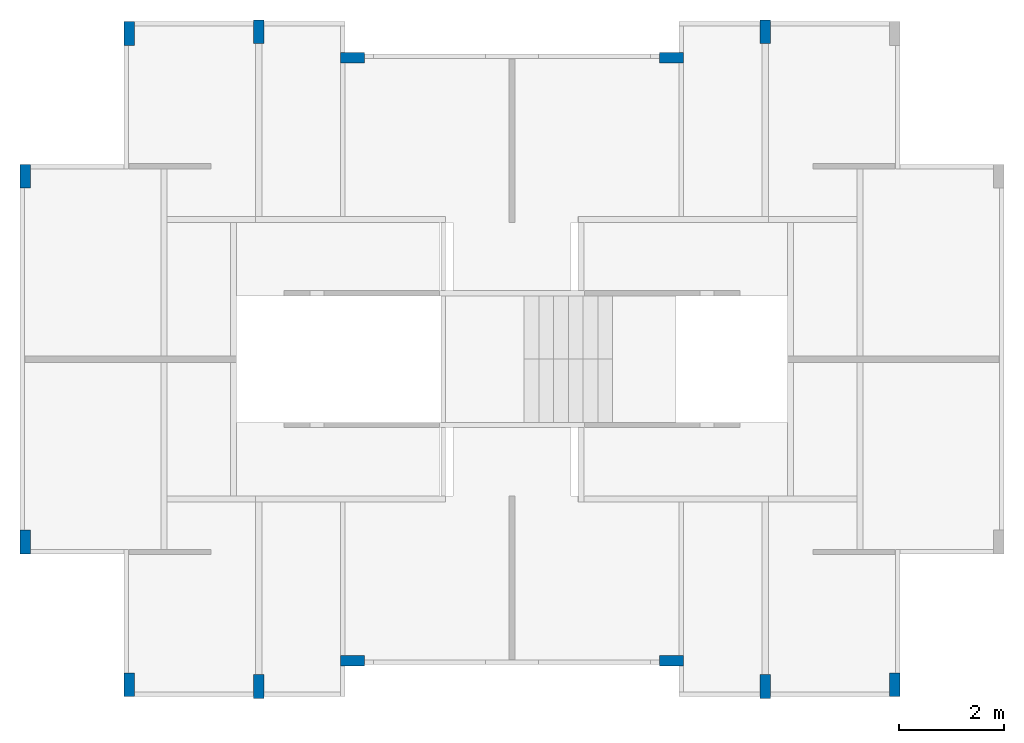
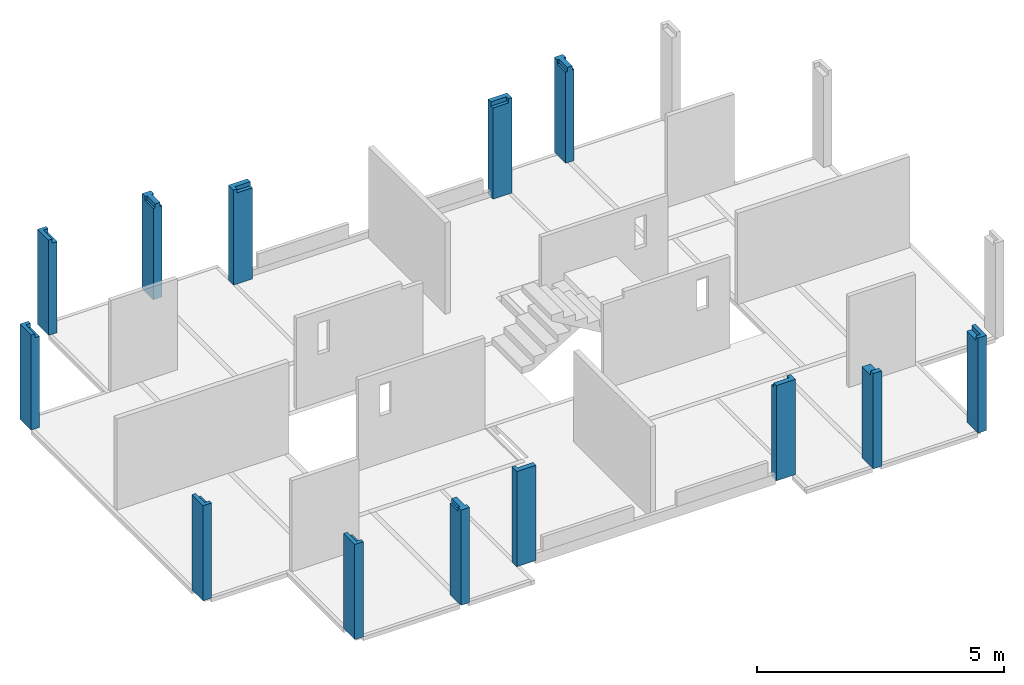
# One storey, part 5 of 6: 14 columns.
"""IFC4 building model written with IfcOpenShell, lengths in metres."""

from ifc_helpers import new_model, entity, si_unit, converted_unit, derived_unit, direction, frame, origin, place, context, subcontext, project, spatial, polygons, source, transform, mapped, material, type_object, type_shapes, element, save


model = new_model("IFC4")

# Units and contexts
model_context = context("Model", 3, precision=1e-05, world=origin(), true_north=direction((6.123031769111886e-17, 1.0)))
body_context = subcontext(model_context, "Body", "Model", "MODEL_VIEW")
ifc_project = project(units=[si_unit("LENGTHUNIT", "METRE"), si_unit("AREAUNIT", "SQUARE_METRE"), si_unit("VOLUMEUNIT", "CUBIC_METRE"), converted_unit("PLANEANGLEUNIT", "DEGREE", entity("IfcRatioMeasure", 0.017453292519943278), si_unit("PLANEANGLEUNIT", "RADIAN"), dimensions=[0, 0, 0, 0, 0, 0, 0]), si_unit("MASSUNIT", "GRAM", prefix="KILO"), derived_unit("MASSDENSITYUNIT", [(si_unit("MASSUNIT", "GRAM", prefix="KILO"), 1), (si_unit("LENGTHUNIT", "METRE"), -3)]), derived_unit("IONCONCENTRATIONUNIT", [(si_unit("MASSUNIT", "GRAM", prefix="KILO"), 1), (si_unit("LENGTHUNIT", "METRE"), -3)]), derived_unit("MOMENTOFINERTIAUNIT", [(si_unit("LENGTHUNIT", "METRE"), 4)]), si_unit("TIMEUNIT", "SECOND"), si_unit("FREQUENCYUNIT", "HERTZ"), si_unit("THERMODYNAMICTEMPERATUREUNIT", "DEGREE_CELSIUS"), derived_unit("THERMALTRANSMITTANCEUNIT", [(si_unit("MASSUNIT", "GRAM", prefix="KILO"), 1), (si_unit("THERMODYNAMICTEMPERATUREUNIT", "KELVIN"), -1), (si_unit("TIMEUNIT", "SECOND"), -3)]), derived_unit("THERMALCONDUCTANCEUNIT", [(si_unit("MASSUNIT", "GRAM", prefix="KILO"), 1), (si_unit("THERMODYNAMICTEMPERATUREUNIT", "KELVIN"), -1), (si_unit("TIMEUNIT", "SECOND"), -3), (si_unit("LENGTHUNIT", "METRE"), 1)]), derived_unit("VOLUMETRICFLOWRATEUNIT", [(si_unit("LENGTHUNIT", "METRE"), 3), (si_unit("TIMEUNIT", "SECOND"), -1)]), derived_unit("MASSFLOWRATEUNIT", [(si_unit("MASSUNIT", "GRAM", prefix="KILO"), 1), (si_unit("TIMEUNIT", "SECOND"), -1)]), derived_unit("ROTATIONALFREQUENCYUNIT", [(si_unit("TIMEUNIT", "SECOND"), -1)]), si_unit("ELECTRICCURRENTUNIT", "AMPERE"), si_unit("ELECTRICVOLTAGEUNIT", "VOLT"), si_unit("POWERUNIT", "WATT"), si_unit("FORCEUNIT", "NEWTON", prefix="KILO"), si_unit("ILLUMINANCEUNIT", "LUX"), si_unit("LUMINOUSFLUXUNIT", "LUMEN"), si_unit("LUMINOUSINTENSITYUNIT", "CANDELA"), derived_unit("USERDEFINED", [(si_unit("MASSUNIT", "GRAM", prefix="KILO"), -1), (si_unit("LENGTHUNIT", "METRE"), -2), (si_unit("TIMEUNIT", "SECOND"), 3), (si_unit("LUMINOUSFLUXUNIT", "LUMEN"), 1)]), derived_unit("USERDEFINED", [(si_unit("MASSUNIT", "GRAM", prefix="KILO"), 1), (si_unit("TIMEUNIT", "SECOND"), -3), (si_unit("LENGTHUNIT", "METRE"), 3), (si_unit("ELECTRICCURRENTUNIT", "AMPERE"), -2)]), derived_unit("SOUNDPOWERUNIT", [(si_unit("MASSUNIT", "GRAM", prefix="KILO"), 1), (si_unit("TIMEUNIT", "SECOND"), -3), (si_unit("LENGTHUNIT", "METRE"), 2)]), derived_unit("SOUNDPRESSUREUNIT", [(si_unit("MASSUNIT", "GRAM", prefix="KILO"), 1), (si_unit("LENGTHUNIT", "METRE"), -1), (si_unit("TIMEUNIT", "SECOND"), -2)]), derived_unit("LINEARVELOCITYUNIT", [(si_unit("LENGTHUNIT", "METRE"), 1), (si_unit("TIMEUNIT", "SECOND"), -1)]), si_unit("PRESSUREUNIT", "PASCAL"), derived_unit("USERDEFINED", [(si_unit("MASSUNIT", "GRAM", prefix="KILO"), 1), (si_unit("LENGTHUNIT", "METRE"), -2), (si_unit("TIMEUNIT", "SECOND"), -2)]), derived_unit("LINEARFORCEUNIT", [(si_unit("MASSUNIT", "GRAM", prefix="KILO"), 1), (si_unit("TIMEUNIT", "SECOND"), -2)]), derived_unit("PLANARFORCEUNIT", [(si_unit("MASSUNIT", "GRAM", prefix="KILO"), 1), (si_unit("LENGTHUNIT", "METRE"), -1), (si_unit("TIMEUNIT", "SECOND"), -2)]), derived_unit("SPECIFICHEATCAPACITYUNIT", [(si_unit("THERMODYNAMICTEMPERATUREUNIT", "KELVIN"), -1), (si_unit("LENGTHUNIT", "METRE"), 2), (si_unit("TIMEUNIT", "SECOND"), -2)]), derived_unit("HEATINGVALUEUNIT", [(si_unit("LENGTHUNIT", "METRE"), 2), (si_unit("TIMEUNIT", "SECOND"), -2)]), derived_unit("VAPORPERMEABILITYUNIT", [(si_unit("LENGTHUNIT", "METRE"), -1), (si_unit("TIMEUNIT", "SECOND"), 1)]), derived_unit("DYNAMICVISCOSITYUNIT", [(si_unit("MASSUNIT", "GRAM", prefix="KILO"), 1), (si_unit("TIMEUNIT", "SECOND"), -1), (si_unit("LENGTHUNIT", "METRE"), -1)]), derived_unit("THERMALEXPANSIONCOEFFICIENTUNIT", [(si_unit("THERMODYNAMICTEMPERATUREUNIT", "KELVIN"), -1)]), derived_unit("MODULUSOFELASTICITYUNIT", [(si_unit("MASSUNIT", "GRAM", prefix="KILO"), 1), (si_unit("LENGTHUNIT", "METRE"), -1), (si_unit("TIMEUNIT", "SECOND"), -2)]), derived_unit("ISOTHERMALMOISTURECAPACITYUNIT", [(si_unit("LENGTHUNIT", "METRE"), 3), (si_unit("MASSUNIT", "GRAM", prefix="KILO"), -1)]), derived_unit("MOISTUREDIFFUSIVITYUNIT", [(si_unit("TIMEUNIT", "SECOND"), -1), (si_unit("LENGTHUNIT", "METRE"), 2)])], contexts=[model_context])

# Site, building, storey
site_placement = place(None, origin())
site = spatial("IfcSite", under=ifc_project, at=site_placement, Name="Default", CompositionType="ELEMENT")
building_placement = place(site_placement, origin())
building = spatial("IfcBuilding", under=site, at=building_placement, Name="Las nubes", CompositionType="ELEMENT")
storey_placement = place(building_placement, frame((0.0, 0.0, 9.400000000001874)))
storey = spatial("IfcBuildingStorey", under=building, at=storey_placement, Name="PISO 5", CompositionType="ELEMENT", Elevation=9.400000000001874)

# Columns
ifc_material = material(Name="Concrete, Cast-in-Place gray", Category="Materials")
column_type_1 = type_object("IfcColumnType", Name="M_Concrete-Rectangular-Column:300 x 450mm", PredefinedType="COLUMN", material=ifc_material)
shared_shape_1 = source(origin(), body_context, "Body", "Tessellation", [
    polygons([(0.19999999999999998, 0.45000000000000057, 1.0828671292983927e-15), (0.19999999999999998, 5.414335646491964e-16, 1.0828671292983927e-15), (0.0, 5.414335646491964e-16, 1.0828671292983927e-15), (0.0, 0.45000000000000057, 1.0828671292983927e-15), (0.19999999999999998, 0.45000000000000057, 2.250000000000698), (0.19999999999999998, 0.45000000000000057, 2.350000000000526), (0.19999999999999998, 0.36499999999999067, 2.350000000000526), (0.19999999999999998, 0.36499999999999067, 2.250000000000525), (0.19999999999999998, 5.414335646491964e-16, 2.250000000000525), (0.08499999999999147, 5.414335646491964e-16, 2.250000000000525), (0.08499999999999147, 5.414335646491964e-16, 2.350000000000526), (0.0, 5.414335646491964e-16, 2.350000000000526), (0.0, 5.414335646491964e-16, 2.250000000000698), (0.0, 0.45000000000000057, 2.350000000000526), (0.08499999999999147, 0.36499999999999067, 2.350000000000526), (0.08499999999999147, 0.36499999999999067, 2.250000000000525)], [[[1, 2, 3, 4]], [[2, 1, 5, 6, 7, 8, 9]], [[3, 2, 9, 10, 11, 12, 13]], [[4, 3, 13, 12, 14]], [[1, 4, 14, 6, 5]], [[14, 12, 11, 15, 7, 6]], [[8, 16, 10, 9]], [[16, 15, 11, 10]], [[15, 16, 8, 7]]], closed=True),
])
type_shapes(column_type_1, [shared_shape_1])
column_1_placement = place(storey_placement, frame((-0.027499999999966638, -3.175000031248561, 0.0)))
element("IfcColumn", 1, at=column_1_placement, inside=storey, type_object=column_type_1, material=ifc_material, Name="M_Concrete-Rectangular-Column:300 x 450mm", ObjectType="M_Concrete-Rectangular-Column:300 x 450mm", PredefinedType="COLUMN", context=body_context, shape_type="MappedRepresentation", body=[
    mapped(shared_shape_1, transform((0.0, 0.0, 0.0), scale=1.0)),
])
column_type_2 = type_object("IfcColumnType", Name="M_Concrete-Rectangular-Column:300 x 450mm", PredefinedType="COLUMN", material=ifc_material)
shared_shape_2 = source(origin(), body_context, "Body", "Tessellation", [
    polygons([(0.19999999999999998, 0.45000000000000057, 1.0828671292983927e-15), (0.19999999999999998, 0.0, 1.0828671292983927e-15), (0.0, 0.0, 1.0828671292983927e-15), (0.0, 0.45000000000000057, 1.0828671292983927e-15), (0.19999999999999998, 0.45000000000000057, 2.250000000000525), (0.19999999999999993, 0.08499488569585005, 2.250000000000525), (0.19999999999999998, 0.08499488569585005, 2.350000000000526), (0.19999999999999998, 0.0, 2.350000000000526), (0.19999999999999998, 0.0, 2.250000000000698), (0.0, 0.0, 2.350000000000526), (0.0, 0.45000000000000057, 2.350000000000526), (0.0, 0.45000000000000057, 2.250000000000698), (0.08500000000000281, 0.45000000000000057, 2.350000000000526), (0.08500000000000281, 0.45000000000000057, 2.250000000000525), (0.08500000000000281, 0.08499488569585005, 2.350000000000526), (0.08500000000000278, 0.08499488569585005, 2.250000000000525)], [[[1, 2, 3, 4]], [[2, 1, 5, 6, 7, 8, 9]], [[3, 2, 9, 8, 10]], [[4, 3, 10, 11, 12]], [[1, 4, 12, 11, 13, 14, 5]], [[10, 8, 7, 15, 13, 11]], [[14, 16, 6, 5]], [[16, 15, 7, 6]], [[15, 16, 14, 13]]], closed=True),
])
type_shapes(column_type_2, [shared_shape_2])
column_2_placement = place(storey_placement, frame((-0.02749999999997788, -10.124994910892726, 0.0)))
element("IfcColumn", 2, at=column_2_placement, inside=storey, type_object=column_type_2, material=ifc_material, Name="M_Concrete-Rectangular-Column:300 x 450mm", ObjectType="M_Concrete-Rectangular-Column:300 x 450mm", PredefinedType="COLUMN", context=body_context, shape_type="MappedRepresentation", body=[
    mapped(shared_shape_2, transform((0.0, 0.0, 0.0), scale=1.0)),
])
column_type_3 = type_object("IfcColumnType", Name="M_Concrete-Rectangular-Column:300 x 450mm", PredefinedType="COLUMN", material=ifc_material)
shared_shape_3 = source(origin(), body_context, "Body", "Tessellation", [
    polygons([(0.2, 0.45, 1.0828671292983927e-15), (0.2, 6.767919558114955e-17, 1.0828671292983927e-15), (0.0, 6.767919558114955e-17, 1.0828671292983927e-15), (0.0, 0.45, 1.0828671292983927e-15), (0.2, 0.45, 2.350000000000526), (0.2, 0.3649999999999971, 2.350000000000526), (0.2, 0.3649999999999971, 2.250000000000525), (0.2, 6.767919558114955e-17, 2.250000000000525), (0.08500000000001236, 6.767919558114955e-17, 2.250000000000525), (0.08500000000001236, 6.767919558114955e-17, 2.350000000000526), (0.0, 6.767919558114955e-17, 2.350000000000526), (0.0, 6.767919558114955e-17, 2.250000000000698), (0.0, 0.45, 2.350000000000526), (0.08500000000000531, 0.3649999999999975, 2.350000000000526), (0.08500000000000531, 0.3649999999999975, 2.250000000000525)], [[[1, 2, 3, 4]], [[2, 1, 5, 6, 7, 8]], [[3, 2, 8, 9, 10, 11, 12]], [[4, 3, 12, 11, 13]], [[1, 4, 13, 5]], [[13, 11, 10, 14, 6, 5]], [[15, 9, 8, 7]], [[14, 15, 7, 6]], [[15, 14, 10, 9]]], closed=True),
])
type_shapes(column_type_3, [shared_shape_3])
column_3_placement = place(storey_placement, frame((1.94749999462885, -0.46000002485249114, 0.0)))
element("IfcColumn", 3, at=column_3_placement, inside=storey, type_object=column_type_3, material=ifc_material, Name="M_Concrete-Rectangular-Column:300 x 450mm", ObjectType="M_Concrete-Rectangular-Column:300 x 450mm", PredefinedType="COLUMN", context=body_context, shape_type="MappedRepresentation", body=[
    mapped(shared_shape_3, transform((0.0, 0.0, 0.0), scale=1.0)),
])
column_type_4 = type_object("IfcColumnType", Name="M_Concrete-Rectangular-Column:300 x 450mm", PredefinedType="COLUMN", material=ifc_material)
shared_shape_4 = source(origin(), body_context, "Body", "Tessellation", [
    polygons([(0.2, 0.45000000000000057, 1.0828671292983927e-15), (0.2, 6.09112760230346e-16, 1.0828671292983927e-15), (0.0, 6.09112760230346e-16, 1.0828671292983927e-15), (0.0, 0.45000000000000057, 1.0828671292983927e-15), (0.2, 0.45000000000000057, 2.350000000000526), (0.2, 0.42002052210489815, 2.350000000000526), (0.2, 0.3350000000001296, 2.350000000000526), (0.2, 0.3350000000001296, 2.250000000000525), (0.2, 6.09112760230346e-16, 2.250000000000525), (0.1574999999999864, 3.383959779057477e-16, 2.250000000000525), (0.1574999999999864, 5.414335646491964e-16, 2.350000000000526), (0.04249999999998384, 6.09112760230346e-16, 2.350000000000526), (0.04249999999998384, 6.09112760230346e-16, 2.250000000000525), (0.0, 6.09112760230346e-16, 2.250000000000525), (0.0, 0.33500000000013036, 2.250000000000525), (0.0, 0.33500000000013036, 2.350000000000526), (0.0, 0.4200205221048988, 2.350000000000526), (0.0, 0.45000000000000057, 2.350000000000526), (0.042499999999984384, 0.3350000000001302, 2.350000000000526), (0.15749999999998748, 0.3350000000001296, 2.350000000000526), (0.042499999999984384, 0.3350000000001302, 2.250000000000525), (0.15749999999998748, 0.3350000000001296, 2.250000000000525)], [[[1, 2, 3, 4]], [[2, 1, 5, 6, 7, 8, 9]], [[3, 2, 9, 10, 11, 12, 13, 14]], [[4, 3, 14, 15, 16, 17, 18]], [[1, 4, 18, 5]], [[5, 18, 17, 16, 19, 12, 11, 20, 7, 6]], [[13, 21, 15, 14]], [[21, 19, 16, 15]], [[19, 21, 13, 12]], [[8, 22, 10, 9]], [[22, 20, 11, 10]], [[20, 22, 8, 7]]], closed=True),
])
type_shapes(column_type_4, [shared_shape_4])
column_4_placement = place(storey_placement, frame((4.409999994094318, -0.4300000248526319, 0.0)))
element("IfcColumn", 4, at=column_4_placement, inside=storey, type_object=column_type_4, material=ifc_material, Name="M_Concrete-Rectangular-Column:300 x 450mm", ObjectType="M_Concrete-Rectangular-Column:300 x 450mm", PredefinedType="COLUMN", context=body_context, shape_type="MappedRepresentation", body=[
    mapped(shared_shape_4, transform((0.0, 0.0, 0.0), scale=1.0)),
])
column_type_5 = type_object("IfcColumnType", Name="M_Concrete-Rectangular-Column:300 x 450mm", PredefinedType="COLUMN", material=ifc_material)
shared_shape_5 = source(origin(), body_context, "Body", "Tessellation", [
    polygons([(2.1657342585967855e-15, 0.20000000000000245, 1.0828671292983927e-15), (0.45000000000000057, 0.2, 1.0828671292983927e-15), (0.45000000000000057, 0.0, 1.0828671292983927e-15), (1.0828671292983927e-15, 2.436451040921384e-15, 1.0828671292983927e-15), (1.0828671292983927e-15, 0.20000000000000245, 2.250000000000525), (2.1657342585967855e-15, 0.20000000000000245, 2.350000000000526), (0.08500000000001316, 0.2000000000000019, 2.350000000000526), (0.45000000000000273, 0.2, 2.350000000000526), (0.45000000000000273, 0.08500000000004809, 2.350000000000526), (0.45000000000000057, 0.08500000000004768, 2.250000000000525), (0.45000000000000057, 0.0, 2.250000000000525), (0.08500000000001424, 1.7596590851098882e-15, 2.250000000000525), (0.08500000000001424, 2.0303758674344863e-15, 2.350000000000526), (1.0828671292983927e-15, 2.436451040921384e-15, 2.350000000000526), (1.0828671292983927e-15, 2.436451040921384e-15, 2.250000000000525), (0.08500000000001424, 0.08500000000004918, 2.350000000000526), (0.08500000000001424, 0.08500000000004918, 2.250000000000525)], [[[1, 2, 3, 4]], [[2, 1, 5, 6, 7, 8]], [[3, 2, 8, 9, 10, 11]], [[4, 3, 11, 12, 13, 14, 15]], [[1, 4, 15, 14, 6, 5]], [[8, 7, 6, 14, 13, 16, 9]], [[10, 17, 12, 11]], [[17, 16, 13, 12]], [[16, 17, 10, 9]]], closed=True),
])
type_shapes(column_type_5, [shared_shape_5])
column_5_placement = place(storey_placement, frame((6.067499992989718, -0.7950000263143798, 0.0)))
element("IfcColumn", 5, at=column_5_placement, inside=storey, type_object=column_type_5, material=ifc_material, Name="M_Concrete-Rectangular-Column:300 x 450mm", ObjectType="M_Concrete-Rectangular-Column:300 x 450mm", PredefinedType="COLUMN", context=body_context, shape_type="MappedRepresentation", body=[
    mapped(shared_shape_5, transform((0.0, 0.0, 0.0), scale=1.0)),
])
column_type_6 = type_object("IfcColumnType", Name="M_Concrete-Rectangular-Column:300 x 450mm", PredefinedType="COLUMN", material=ifc_material)
shared_shape_6 = source(origin(), body_context, "Body", "Tessellation", [
    polygons([(0.0, 6.09112760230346e-16, 1.0828671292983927e-15), (0.0, 0.45000000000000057, 1.0828671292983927e-15), (0.2, 0.45000000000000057, 1.0828671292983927e-15), (0.2, 6.09112760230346e-16, 1.0828671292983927e-15), (0.0, 6.09112760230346e-16, 2.250000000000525), (0.0, 0.3350000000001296, 2.250000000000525), (0.0, 0.3350000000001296, 2.350000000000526), (0.0, 0.41999999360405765, 2.350000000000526), (0.0, 0.45000000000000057, 2.350000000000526), (0.2, 6.09112760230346e-16, 2.250000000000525), (0.15749999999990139, 3.383959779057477e-16, 2.250000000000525), (0.15749999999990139, 5.414335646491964e-16, 2.350000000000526), (0.04249999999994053, 6.09112760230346e-16, 2.350000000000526), (0.04249999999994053, 3.383959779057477e-16, 2.250000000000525), (0.2, 0.45000000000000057, 2.350000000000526), (0.2, 0.41999999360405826, 2.350000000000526), (0.2, 0.33500000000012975, 2.350000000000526), (0.2, 0.33500000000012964, 2.250000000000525), (0.04249999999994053, 0.3350000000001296, 2.350000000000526), (0.15749999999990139, 0.3350000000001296, 2.350000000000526), (0.04249999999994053, 0.3350000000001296, 2.250000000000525), (0.15749999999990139, 0.3350000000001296, 2.250000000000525)], [[[1, 2, 3, 4]], [[2, 1, 5, 6, 7, 8, 9]], [[1, 4, 10, 11, 12, 13, 14, 5]], [[4, 3, 15, 16, 17, 18, 10]], [[3, 2, 9, 15]], [[15, 9, 8, 7, 19, 13, 12, 20, 17, 16]], [[14, 21, 6, 5]], [[21, 19, 7, 6]], [[19, 21, 14, 13]], [[18, 22, 11, 10]], [[20, 22, 18, 17]], [[22, 20, 12, 11]]], closed=True),
])
type_shapes(column_type_6, [shared_shape_6])
column_6_placement = place(storey_placement, frame((14.035000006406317, -0.4300000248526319, 0.0)))
element("IfcColumn", 6, at=column_6_placement, inside=storey, type_object=column_type_6, material=ifc_material, Name="M_Concrete-Rectangular-Column:300 x 450mm", ObjectType="M_Concrete-Rectangular-Column:300 x 450mm", PredefinedType="COLUMN", context=body_context, shape_type="MappedRepresentation", body=[
    mapped(shared_shape_6, transform((0.0, 0.0, 0.0), scale=1.0)),
])
column_type_7 = type_object("IfcColumnType", Name="M_Concrete-Rectangular-Column:300 x 450mm", PredefinedType="COLUMN", material=ifc_material)
shared_shape_7 = source(origin(), body_context, "Body", "Tessellation", [
    polygons([(0.0, 0.2, 1.0828671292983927e-15), (0.4500000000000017, 0.20000000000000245, 1.0828671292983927e-15), (0.4500000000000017, 2.436451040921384e-15, 1.0828671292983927e-15), (0.0, 0.0, 1.0828671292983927e-15), (0.0, 0.2, 2.350000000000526), (0.364999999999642, 0.2000000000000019, 2.350000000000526), (0.4500000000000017, 0.20000000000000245, 2.350000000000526), (0.4500000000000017, 0.20000000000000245, 2.250000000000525), (0.0, 0.0, 2.250000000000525), (0.0, 0.08500000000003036, 2.250000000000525), (0.0, 0.08500000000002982, 2.350000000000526), (0.4500000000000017, 2.436451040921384e-15, 2.250000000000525), (0.4500000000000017, 2.436451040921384e-15, 2.350000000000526), (0.36499999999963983, 2.0303758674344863e-15, 2.350000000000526), (0.36499999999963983, 2.1657342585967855e-15, 2.250000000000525), (0.36499999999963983, 0.08500000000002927, 2.350000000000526), (0.36499999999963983, 0.08500000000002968, 2.250000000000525)], [[[1, 2, 3, 4]], [[2, 1, 5, 6, 7, 8]], [[1, 4, 9, 10, 11, 5]], [[4, 3, 12, 13, 14, 15, 9]], [[3, 2, 8, 7, 13, 12]], [[7, 6, 5, 11, 16, 14, 13]], [[15, 17, 10, 9]], [[17, 16, 11, 10]], [[16, 17, 15, 14]]], closed=True),
])
type_shapes(column_type_7, [shared_shape_7])
column_7_placement = place(storey_placement, frame((12.127500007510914, -0.7950000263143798, 0.0)))
element("IfcColumn", 7, at=column_7_placement, inside=storey, type_object=column_type_7, material=ifc_material, Name="M_Concrete-Rectangular-Column:300 x 450mm", ObjectType="M_Concrete-Rectangular-Column:300 x 450mm", PredefinedType="COLUMN", context=body_context, shape_type="MappedRepresentation", body=[
    mapped(shared_shape_7, transform((0.0, 0.0, 0.0), scale=1.0)),
])
column_type_8 = type_object("IfcColumnType", Name="M_Concrete-Rectangular-Column:300 x 450mm", PredefinedType="COLUMN", material=ifc_material)
shared_shape_8 = source(origin(), body_context, "Body", "Tessellation", [
    polygons([(0.20000000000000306, 0.4500000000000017, 1.0828671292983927e-15), (0.19999999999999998, 2.1657342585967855e-15, 1.0828671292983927e-15), (4.229949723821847e-18, 2.1657342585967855e-15, 1.0828671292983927e-15), (3.0794033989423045e-15, 0.4500000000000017, 1.0828671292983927e-15), (0.20000000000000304, 0.45000000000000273, 2.250000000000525), (0.2000000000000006, 0.08499999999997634, 2.250000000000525), (0.2000000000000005, 0.08499999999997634, 2.350000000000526), (0.19999999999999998, 0.0, 2.350000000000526), (3.0751734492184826e-15, 0.45000000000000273, 2.250000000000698), (3.0794033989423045e-15, 0.4500000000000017, 2.350000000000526), (0.08500000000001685, 0.4500000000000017, 2.350000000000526), (0.08500000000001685, 0.4500000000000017, 2.250000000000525), (4.229949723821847e-18, 2.1657342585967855e-15, 2.350000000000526), (0.08500000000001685, 0.08499999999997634, 2.350000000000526), (0.08500000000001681, 0.08499999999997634, 2.250000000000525)], [[[1, 2, 3, 4]], [[2, 1, 5, 6, 7, 8]], [[1, 4, 9, 10, 11, 12, 5]], [[4, 3, 13, 10, 9]], [[3, 2, 8, 13]], [[10, 13, 8, 7, 14, 11]], [[12, 15, 6, 5]], [[15, 14, 7, 6]], [[14, 15, 12, 11]]], closed=True),
])
type_shapes(column_type_8, [shared_shape_8])
column_8_placement = place(storey_placement, frame((-0.027499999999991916, -10.125000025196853, 0.0)))
element("IfcColumn", 8, at=column_8_placement, inside=storey, type_object=column_type_8, material=ifc_material, Name="M_Concrete-Rectangular-Column:300 x 450mm", ObjectType="M_Concrete-Rectangular-Column:300 x 450mm", PredefinedType="COLUMN", context=body_context, shape_type="MappedRepresentation", body=[
    mapped(shared_shape_8, transform((0.0, 0.0, 0.0), scale=1.0)),
])
column_type_9 = type_object("IfcColumnType", Name="M_Concrete-Rectangular-Column:300 x 450mm", PredefinedType="COLUMN", material=ifc_material)
shared_shape_9 = source(origin(), body_context, "Body", "Tessellation", [
    polygons([(0.20000000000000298, 0.4500000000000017, 1.0828671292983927e-15), (0.19999999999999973, 0.0, 1.0828671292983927e-15), (-2.707167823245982e-16, 2.1657342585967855e-15, 1.0828671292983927e-15), (2.97788460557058e-15, 0.4500000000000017, 1.0828671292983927e-15), (0.20000000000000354, 0.45000000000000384, 2.250000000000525), (0.20000000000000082, 0.08499999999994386, 2.250000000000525), (0.20000000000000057, 0.08499999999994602, 2.350000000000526), (0.19999999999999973, 0.0, 2.350000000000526), (0.2, 2.1657342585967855e-15, 2.250000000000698), (3.2486013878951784e-15, 0.45000000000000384, 2.250000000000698), (2.97788460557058e-15, 0.4500000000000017, 2.350000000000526), (0.08500000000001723, 0.4500000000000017, 2.350000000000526), (0.08500000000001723, 0.45000000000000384, 2.250000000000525), (-2.707167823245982e-16, 2.1657342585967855e-15, 2.350000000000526), (0.08500000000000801, 0.08499999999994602, 2.350000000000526), (0.08500000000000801, 0.08499999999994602, 2.250000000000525)], [[[1, 2, 3, 4]], [[2, 1, 5, 6, 7, 8, 9]], [[1, 4, 10, 11, 12, 13, 5]], [[4, 3, 14, 11, 10]], [[3, 2, 9, 8, 14]], [[11, 14, 8, 7, 15, 12]], [[16, 6, 5, 13]], [[16, 15, 7, 6]], [[15, 16, 13, 12]]], closed=True),
])
type_shapes(column_type_9, [shared_shape_9])
column_9_placement = place(storey_placement, frame((1.9474999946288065, -12.840000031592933, 0.0)))
element("IfcColumn", 9, at=column_9_placement, inside=storey, type_object=column_type_9, material=ifc_material, Name="M_Concrete-Rectangular-Column:300 x 450mm", ObjectType="M_Concrete-Rectangular-Column:300 x 450mm", PredefinedType="COLUMN", context=body_context, shape_type="MappedRepresentation", body=[
    mapped(shared_shape_9, transform((0.0, 0.0, 0.0), scale=1.0)),
])
column_type_10 = type_object("IfcColumnType", Name="M_Concrete-Rectangular-Column:300 x 450mm", PredefinedType="COLUMN", material=ifc_material)
shared_shape_10 = source(origin(), body_context, "Body", "Tessellation", [
    polygons([(0.20000000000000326, 0.4499999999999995, 1.0828671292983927e-15), (0.2, -2.1657342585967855e-15, 1.0828671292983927e-15), (0.0, 0.0, 1.0828671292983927e-15), (3.2486013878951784e-15, 0.4499999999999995, 1.0828671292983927e-15), (0.20000000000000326, 0.4499999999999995, 2.250000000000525), (0.2000000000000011, 0.11499999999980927, 2.250000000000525), (0.20000000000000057, 0.11499999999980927, 2.350000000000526), (0.2, 0.029999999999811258, 2.350000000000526), (0.2, -2.1657342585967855e-15, 2.350000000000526), (3.2486013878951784e-15, 0.4499999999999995, 2.250000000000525), (0.042499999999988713, 0.4500000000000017, 2.250000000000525), (0.04249999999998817, 0.4499999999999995, 2.350000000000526), (0.15750000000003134, 0.4499999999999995, 2.350000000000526), (0.15750000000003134, 0.4500000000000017, 2.250000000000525), (0.0, 0.0, 2.350000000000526), (0.0, 0.029999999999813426, 2.350000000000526), (5.414335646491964e-16, 0.1149999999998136, 2.350000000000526), (5.414335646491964e-16, 0.1149999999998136, 2.250000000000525), (0.15750000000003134, 0.11499999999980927, 2.350000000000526), (0.04249999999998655, 0.1149999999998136, 2.350000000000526), (0.04249999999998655, 0.1149999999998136, 2.250000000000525), (0.15750000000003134, 0.11499999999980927, 2.250000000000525)], [[[1, 2, 3, 4]], [[2, 1, 5, 6, 7, 8, 9]], [[1, 4, 10, 11, 12, 13, 14, 5]], [[4, 3, 15, 16, 17, 18, 10]], [[3, 2, 9, 15]], [[15, 9, 8, 7, 19, 13, 12, 20, 17, 16]], [[18, 21, 11, 10]], [[20, 21, 18, 17]], [[21, 20, 12, 11]], [[14, 22, 6, 5]], [[22, 19, 7, 6]], [[19, 22, 14, 13]]], closed=True),
])
type_shapes(column_type_10, [shared_shape_10])
column_10_placement = place(storey_placement, frame((4.4099999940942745, -12.870000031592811, 0.0)))
element("IfcColumn", 10, at=column_10_placement, inside=storey, type_object=column_type_10, material=ifc_material, Name="M_Concrete-Rectangular-Column:300 x 450mm", ObjectType="M_Concrete-Rectangular-Column:300 x 450mm", PredefinedType="COLUMN", context=body_context, shape_type="MappedRepresentation", body=[
    mapped(shared_shape_10, transform((0.0, 0.0, 0.0), scale=1.0)),
])
column_type_11 = type_object("IfcColumnType", Name="M_Concrete-Rectangular-Column:300 x 450mm", PredefinedType="COLUMN", material=ifc_material)
shared_shape_11 = source(origin(), body_context, "Body", "Tessellation", [
    polygons([(0.4499999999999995, 0.0, 1.0828671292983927e-15), (0.0, 0.0, 1.0828671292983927e-15), (0.0, 0.2, 1.0828671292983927e-15), (0.4499999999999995, 0.2, 1.0828671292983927e-15), (0.4499999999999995, 0.0, 2.350000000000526), (0.08500000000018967, 0.0, 2.350000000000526), (0.0, 0.0, 2.350000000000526), (0.0, 0.0, 2.250000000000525), (0.4499999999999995, 0.2, 2.250000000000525), (0.4499999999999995, 0.11500000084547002, 2.250000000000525), (0.4499999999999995, 0.11500000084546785, 2.350000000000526), (0.0, 0.2, 2.250000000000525), (0.0, 0.2, 2.350000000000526), (0.08500000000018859, 0.2, 2.350000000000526), (0.08500000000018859, 0.2, 2.250000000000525), (0.08500000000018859, 0.11500000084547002, 2.350000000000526), (0.08500000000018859, 0.11500000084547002, 2.250000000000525)], [[[1, 2, 3, 4]], [[2, 1, 5, 6, 7, 8]], [[1, 4, 9, 10, 11, 5]], [[4, 3, 12, 13, 14, 15, 9]], [[3, 2, 8, 7, 13, 12]], [[7, 6, 5, 11, 16, 14, 13]], [[15, 17, 10, 9]], [[17, 16, 11, 10]], [[16, 17, 15, 14]]], closed=True),
])
type_shapes(column_type_11, [shared_shape_11])
column_11_placement = place(storey_placement, frame((6.067499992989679, -12.255000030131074, 0.0)))
element("IfcColumn", 11, at=column_11_placement, inside=storey, type_object=column_type_11, material=ifc_material, Name="M_Concrete-Rectangular-Column:300 x 450mm", ObjectType="M_Concrete-Rectangular-Column:300 x 450mm", PredefinedType="COLUMN", context=body_context, shape_type="MappedRepresentation", body=[
    mapped(shared_shape_11, transform((0.0, 0.0, 0.0), scale=1.0)),
])
column_type_12 = type_object("IfcColumnType", Name="M_Concrete-Rectangular-Column:300 x 450mm", PredefinedType="COLUMN", material=ifc_material)
shared_shape_12 = source(origin(), body_context, "Body", "Tessellation", [
    polygons([(0.0, 0.0, 1.0828671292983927e-15), (2.1657342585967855e-15, 0.4499999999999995, 1.0828671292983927e-15), (0.20000000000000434, 0.4499999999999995, 1.0828671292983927e-15), (0.2, -2.1657342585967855e-15, 1.0828671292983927e-15), (0.0, 0.0, 2.350000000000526), (0.0, 0.08500000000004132, 2.350000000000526), (2.1657342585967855e-15, 0.08500000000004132, 2.250000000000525), (6.497202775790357e-15, 0.4499999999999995, 2.250000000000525), (0.11499999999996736, 0.4499999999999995, 2.250000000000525), (0.11499999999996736, 0.4499999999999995, 2.350000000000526), (0.2, 0.44999999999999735, 2.350000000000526), (0.20000000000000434, 0.4499999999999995, 2.250000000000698), (0.2, -2.1657342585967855e-15, 2.350000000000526), (0.11499999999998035, 0.08500000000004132, 2.350000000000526), (0.11499999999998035, 0.08500000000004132, 2.250000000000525)], [[[1, 2, 3, 4]], [[2, 1, 5, 6, 7, 8]], [[3, 2, 8, 9, 10, 11, 12]], [[4, 3, 12, 11, 13]], [[1, 4, 13, 5]], [[13, 11, 10, 14, 6, 5]], [[15, 9, 8, 7]], [[14, 15, 7, 6]], [[15, 14, 10, 9]]], closed=True),
])
type_shapes(column_type_12, [shared_shape_12])
column_12_placement = place(storey_placement, frame((16.497500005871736, -12.84000003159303, 0.0)))
element("IfcColumn", 12, at=column_12_placement, inside=storey, type_object=column_type_12, material=ifc_material, Name="M_Concrete-Rectangular-Column:300 x 450mm", ObjectType="M_Concrete-Rectangular-Column:300 x 450mm", PredefinedType="COLUMN", context=body_context, shape_type="MappedRepresentation", body=[
    mapped(shared_shape_12, transform((0.0, 0.0, 0.0), scale=1.0)),
])
column_type_13 = type_object("IfcColumnType", Name="M_Concrete-Rectangular-Column:300 x 450mm", PredefinedType="COLUMN", material=ifc_material)
shared_shape_13 = source(origin(), body_context, "Body", "Tessellation", [
    polygons([(0.0, 0.0, 1.0828671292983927e-15), (2.1657342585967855e-15, 0.4499999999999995, 1.0828671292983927e-15), (0.20000000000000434, 0.4499999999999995, 1.0828671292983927e-15), (0.2, -2.1657342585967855e-15, 1.0828671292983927e-15), (0.0, 0.0, 2.350000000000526), (0.0, 0.030001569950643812, 2.350000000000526), (0.0, 0.1149999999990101, 2.350000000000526), (2.1657342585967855e-15, 0.11499999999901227, 2.250000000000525), (6.497202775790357e-15, 0.4499999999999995, 2.250000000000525), (0.15749999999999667, 0.4499999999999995, 2.250000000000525), (0.20000000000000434, 0.4499999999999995, 2.250000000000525), (0.2, 0.11499999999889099, 2.250000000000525), (0.2, 0.11499999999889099, 2.350000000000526), (0.2, 0.03000156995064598, 2.350000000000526), (0.2, -2.1657342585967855e-15, 2.350000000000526), (0.15749999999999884, 0.11499999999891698, 2.350000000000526), (0.15749999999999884, 0.11499999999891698, 2.250000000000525)], [[[1, 2, 3, 4]], [[2, 1, 5, 6, 7, 8, 9]], [[3, 2, 9, 10, 11]], [[4, 3, 11, 12, 13, 14, 15]], [[1, 4, 15, 5]], [[5, 15, 14, 13, 16, 7, 6]], [[9, 8, 17, 12, 11, 10]], [[8, 7, 16, 13, 12, 17]]], closed=True),
])
type_shapes(column_type_13, [shared_shape_13])
column_13_placement = place(storey_placement, frame((14.035000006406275, -12.870000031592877, 0.0)))
element("IfcColumn", 13, at=column_13_placement, inside=storey, type_object=column_type_13, material=ifc_material, Name="M_Concrete-Rectangular-Column:300 x 450mm", ObjectType="M_Concrete-Rectangular-Column:300 x 450mm", PredefinedType="COLUMN", context=body_context, shape_type="MappedRepresentation", body=[
    mapped(shared_shape_13, transform((0.0, 0.0, 0.0), scale=1.0)),
])
column_type_14 = type_object("IfcColumnType", Name="M_Concrete-Rectangular-Column:300 x 450mm", PredefinedType="COLUMN", material=ifc_material)
shared_shape_14 = source(origin(), body_context, "Body", "Tessellation", [
    polygons([(0.45000000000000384, 0.0, 1.0828671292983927e-15), (2.1657342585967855e-15, 6.497202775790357e-15, 1.0828671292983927e-15), (6.497202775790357e-15, 0.2000000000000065, 1.0828671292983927e-15), (0.450000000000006, 0.2, 1.0828671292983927e-15), (0.4500000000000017, 0.0, 2.250000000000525), (0.45000000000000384, 0.0, 2.350000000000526), (0.3649999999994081, 0.0, 2.350000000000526), (2.1657342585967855e-15, 6.497202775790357e-15, 2.350000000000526), (4.331468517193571e-15, 0.1150000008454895, 2.350000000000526), (4.331468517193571e-15, 0.1150000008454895, 2.250000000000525), (4.331468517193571e-15, 0.20000000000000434, 2.250000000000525), (0.36499999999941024, 0.20000000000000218, 2.250000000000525), (0.36499999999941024, 0.2, 2.350000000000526), (0.450000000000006, 0.2, 2.350000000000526), (0.450000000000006, 0.2, 2.250000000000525), (0.36499999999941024, 0.11500000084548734, 2.350000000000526), (0.36499999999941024, 0.11500000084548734, 2.250000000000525)], [[[1, 2, 3, 4]], [[2, 1, 5, 6, 7, 8]], [[3, 2, 8, 9, 10, 11]], [[4, 3, 11, 12, 13, 14, 15]], [[1, 4, 15, 14, 6, 5]], [[8, 7, 6, 14, 13, 16, 9]], [[10, 17, 12, 11]], [[17, 16, 13, 12]], [[16, 17, 10, 9]]], closed=True),
])
type_shapes(column_type_14, [shared_shape_14])
column_14_placement = place(storey_placement, frame((12.127500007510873, -12.255000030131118, 0.0)))
element("IfcColumn", 14, at=column_14_placement, inside=storey, type_object=column_type_14, material=ifc_material, Name="M_Concrete-Rectangular-Column:300 x 450mm", ObjectType="M_Concrete-Rectangular-Column:300 x 450mm", PredefinedType="COLUMN", context=body_context, shape_type="MappedRepresentation", body=[
    mapped(shared_shape_14, transform((0.0, 0.0, 0.0), scale=1.0)),
])

save(model, "model.ifc")
